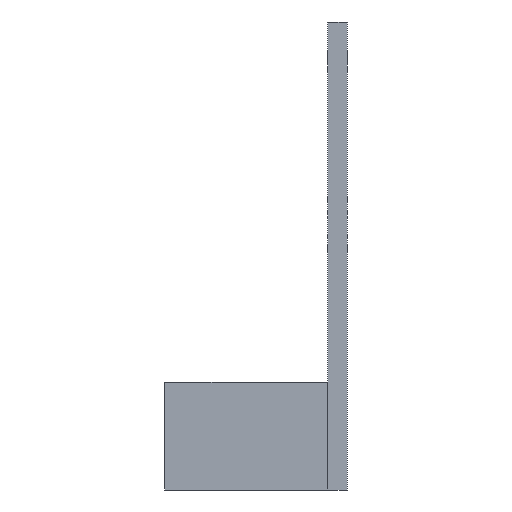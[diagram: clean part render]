
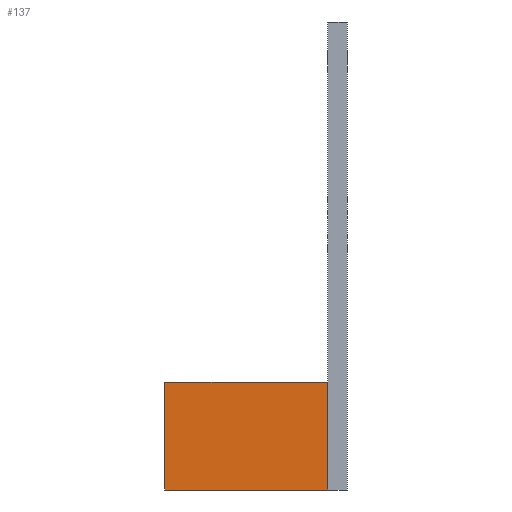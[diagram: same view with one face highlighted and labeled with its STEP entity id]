
A CAD part, front view. The second image highlights one B-rep face of the part: STEP entity #137.
In plain terms, the highlighted planar face has unit normal (0, -1, 0).
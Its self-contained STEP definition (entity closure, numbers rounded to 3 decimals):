
#21 = EDGE_CURVE('',#22,#24,#26,.T.);
#22 = VERTEX_POINT('',#23);
#23 = CARTESIAN_POINT('',(0.,-8.,62.5));
#24 = VERTEX_POINT('',#25);
#25 = CARTESIAN_POINT('',(0.,-8.,84.5));
#26 = SURFACE_CURVE('',#27,(#31,#43),.PCURVE_S1.);
#27 = LINE('',#28,#29);
#28 = CARTESIAN_POINT('',(0.,-8.,62.5));
#29 = VECTOR('',#30,1.);
#30 = DIRECTION('',(0.,0.,1.));
#31 = PCURVE('',#32,#37);
#32 = PLANE('',#33);
#33 = AXIS2_PLACEMENT_3D('',#34,#35,#36);
#34 = CARTESIAN_POINT('',(0.,-8.,62.5));
#35 = DIRECTION('',(1.,0.,0.));
#36 = DIRECTION('',(0.,0.,1.));
#37 = DEFINITIONAL_REPRESENTATION('',(#38),#42);
#38 = LINE('',#39,#40);
#39 = CARTESIAN_POINT('',(0.,0.));
#40 = VECTOR('',#41,1.);
#41 = DIRECTION('',(1.,0.));
#42 = ( GEOMETRIC_REPRESENTATION_CONTEXT(2) 
PARAMETRIC_REPRESENTATION_CONTEXT() REPRESENTATION_CONTEXT('2D SPACE',''
  ) );
#43 = PCURVE('',#44,#49);
#44 = PLANE('',#45);
#45 = AXIS2_PLACEMENT_3D('',#46,#47,#48);
#46 = CARTESIAN_POINT('',(0.,-8.,62.5));
#47 = DIRECTION('',(0.,1.,0.));
#48 = DIRECTION('',(0.,0.,1.));
#49 = DEFINITIONAL_REPRESENTATION('',(#50),#54);
#50 = LINE('',#51,#52);
#51 = CARTESIAN_POINT('',(0.,0.));
#52 = VECTOR('',#53,1.);
#53 = DIRECTION('',(1.,0.));
#54 = ( GEOMETRIC_REPRESENTATION_CONTEXT(2) 
PARAMETRIC_REPRESENTATION_CONTEXT() REPRESENTATION_CONTEXT('2D SPACE',''
  ) );
#72 = PLANE('',#73);
#73 = AXIS2_PLACEMENT_3D('',#74,#75,#76);
#74 = CARTESIAN_POINT('',(0.,-8.,62.5));
#75 = DIRECTION('',(0.,0.,1.));
#76 = DIRECTION('',(1.,0.,0.));
#126 = PLANE('',#127);
#127 = AXIS2_PLACEMENT_3D('',#128,#129,#130);
#128 = CARTESIAN_POINT('',(0.,-8.,84.5));
#129 = DIRECTION('',(0.,0.,1.));
#130 = DIRECTION('',(1.,0.,0.));
#137 = ADVANCED_FACE('',(#138),#44,.F.);
#138 = FACE_BOUND('',#139,.F.);
#139 = EDGE_LOOP('',(#140,#163,#164,#187));
#140 = ORIENTED_EDGE('',*,*,#141,.F.);
#141 = EDGE_CURVE('',#22,#142,#144,.T.);
#142 = VERTEX_POINT('',#143);
#143 = CARTESIAN_POINT('',(33.25,-8.,62.5));
#144 = SURFACE_CURVE('',#145,(#149,#156),.PCURVE_S1.);
#145 = LINE('',#146,#147);
#146 = CARTESIAN_POINT('',(0.,-8.,62.5));
#147 = VECTOR('',#148,1.);
#148 = DIRECTION('',(1.,0.,0.));
#149 = PCURVE('',#44,#150);
#150 = DEFINITIONAL_REPRESENTATION('',(#151),#155);
#151 = LINE('',#152,#153);
#152 = CARTESIAN_POINT('',(0.,0.));
#153 = VECTOR('',#154,1.);
#154 = DIRECTION('',(0.,1.));
#155 = ( GEOMETRIC_REPRESENTATION_CONTEXT(2) 
PARAMETRIC_REPRESENTATION_CONTEXT() REPRESENTATION_CONTEXT('2D SPACE',''
  ) );
#156 = PCURVE('',#72,#157);
#157 = DEFINITIONAL_REPRESENTATION('',(#158),#162);
#158 = LINE('',#159,#160);
#159 = CARTESIAN_POINT('',(0.,0.));
#160 = VECTOR('',#161,1.);
#161 = DIRECTION('',(1.,0.));
#162 = ( GEOMETRIC_REPRESENTATION_CONTEXT(2) 
PARAMETRIC_REPRESENTATION_CONTEXT() REPRESENTATION_CONTEXT('2D SPACE',''
  ) );
#163 = ORIENTED_EDGE('',*,*,#21,.T.);
#164 = ORIENTED_EDGE('',*,*,#165,.T.);
#165 = EDGE_CURVE('',#24,#166,#168,.T.);
#166 = VERTEX_POINT('',#167);
#167 = CARTESIAN_POINT('',(33.25,-8.,84.5));
#168 = SURFACE_CURVE('',#169,(#173,#180),.PCURVE_S1.);
#169 = LINE('',#170,#171);
#170 = CARTESIAN_POINT('',(0.,-8.,84.5));
#171 = VECTOR('',#172,1.);
#172 = DIRECTION('',(1.,0.,0.));
#173 = PCURVE('',#44,#174);
#174 = DEFINITIONAL_REPRESENTATION('',(#175),#179);
#175 = LINE('',#176,#177);
#176 = CARTESIAN_POINT('',(22.,0.));
#177 = VECTOR('',#178,1.);
#178 = DIRECTION('',(0.,1.));
#179 = ( GEOMETRIC_REPRESENTATION_CONTEXT(2) 
PARAMETRIC_REPRESENTATION_CONTEXT() REPRESENTATION_CONTEXT('2D SPACE',''
  ) );
#180 = PCURVE('',#126,#181);
#181 = DEFINITIONAL_REPRESENTATION('',(#182),#186);
#182 = LINE('',#183,#184);
#183 = CARTESIAN_POINT('',(0.,0.));
#184 = VECTOR('',#185,1.);
#185 = DIRECTION('',(1.,0.));
#186 = ( GEOMETRIC_REPRESENTATION_CONTEXT(2) 
PARAMETRIC_REPRESENTATION_CONTEXT() REPRESENTATION_CONTEXT('2D SPACE',''
  ) );
#187 = ORIENTED_EDGE('',*,*,#188,.T.);
#188 = EDGE_CURVE('',#166,#142,#189,.T.);
#189 = SURFACE_CURVE('',#190,(#194,#200),.PCURVE_S1.);
#190 = LINE('',#191,#192);
#191 = CARTESIAN_POINT('',(33.25,-8.,62.5));
#192 = VECTOR('',#193,1.);
#193 = DIRECTION('',(0.,0.,-1.));
#194 = PCURVE('',#44,#195);
#195 = DEFINITIONAL_REPRESENTATION('',(#196),#199);
#196 = B_SPLINE_CURVE_WITH_KNOTS('',1,(#197,#198),.UNSPECIFIED.,.F.,.F.,
  (2,2),(-22.,0.),.PIECEWISE_BEZIER_KNOTS.);
#197 = CARTESIAN_POINT('',(22.,33.25));
#198 = CARTESIAN_POINT('',(0.,33.25));
#199 = ( GEOMETRIC_REPRESENTATION_CONTEXT(2) 
PARAMETRIC_REPRESENTATION_CONTEXT() REPRESENTATION_CONTEXT('2D SPACE',''
  ) );
#200 = PCURVE('',#201,#206);
#201 = PLANE('',#202);
#202 = AXIS2_PLACEMENT_3D('',#203,#204,#205);
#203 = CARTESIAN_POINT('',(33.25,-38.5,62.5));
#204 = DIRECTION('',(1.,0.,0.));
#205 = DIRECTION('',(0.,0.,1.));
#206 = DEFINITIONAL_REPRESENTATION('',(#207),#210);
#207 = B_SPLINE_CURVE_WITH_KNOTS('',1,(#208,#209),.UNSPECIFIED.,.F.,.F.,
  (2,2),(-22.,0.),.PIECEWISE_BEZIER_KNOTS.);
#208 = CARTESIAN_POINT('',(22.,-30.5));
#209 = CARTESIAN_POINT('',(0.,-30.5));
#210 = ( GEOMETRIC_REPRESENTATION_CONTEXT(2) 
PARAMETRIC_REPRESENTATION_CONTEXT() REPRESENTATION_CONTEXT('2D SPACE',''
  ) );
